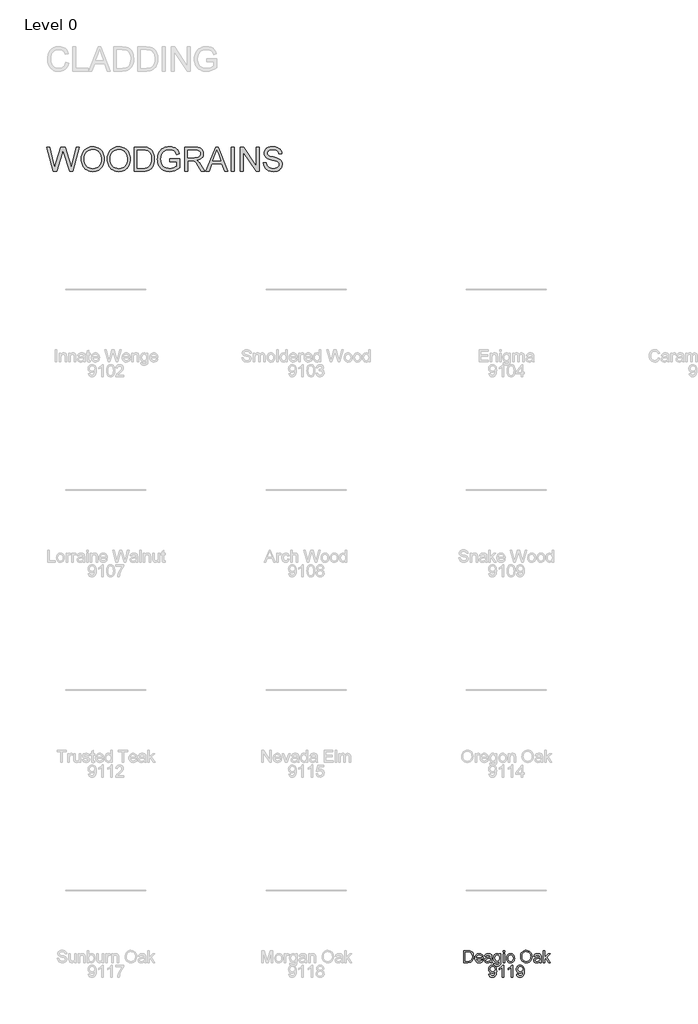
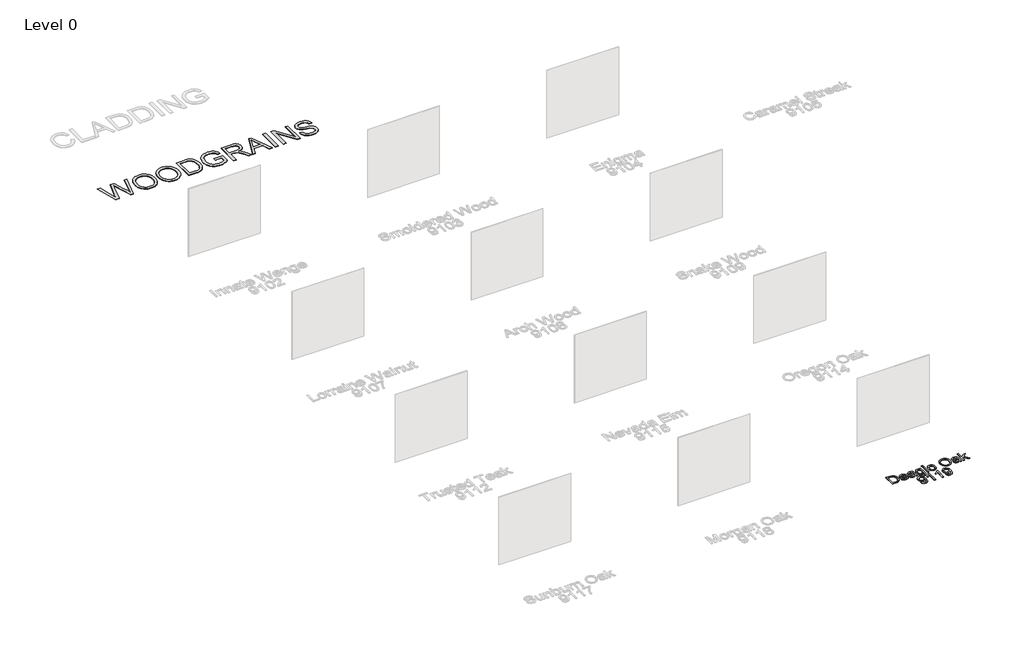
# One storey, part 5 of 10: 2 proxies.
"""IFC4 building model written with IfcOpenShell, lengths in millimetres."""

from ifc_helpers import new_model, si_unit, origin, origin_with_axes, place, context, project, spatial, polyline, outline, extrude, element, save

model = new_model("IFC4")

# Units and contexts
model_context = context("Model", 3, world=origin())
ifc_project = project(units=[si_unit("LENGTHUNIT", "METRE", prefix="MILLI")], contexts=[model_context])

# Site, building, storey
site = spatial("IfcSite", under=ifc_project)
building = spatial("IfcBuilding", under=site)
storey = spatial("IfcBuildingStorey", under=building, Name="Level 0", Elevation=0.0)

# Proxies
placement = place(None, origin())
element("IfcBuildingElementProxy", 1, Name="300mm Arial", ObjectType="300mm Arial", at=placement, inside=storey, context=model_context, shape_type="SweptSolid", body=[
    extrude(outline(polyline([(-519.5759815, -22002.860494), (-519.5759815, -21701.4915635), (-415.6125297, -21701.4915635), (-361.828182, -21705.8325711), (-337.8054877, -21714.2018865), (-317.5351897, -21727.390456), (-296.6946747, -21750.3462925), (-281.8506362, -21778.8939353), (-272.966286, -21812.4815615), (-270.004836, -21850.557348), (-272.0097928, -21882.9033724), (-278.0246635, -21911.3682418), (-287.1849251, -21935.6024682), (-298.6260552, -21955.2565638), (-311.7962306, -21970.771987), (-326.1436284, -21982.590196), (-342.6155448, -21991.3549846), (-362.1592758, -21997.710146), (-410.6093345, -22002.860494), (-519.5759815, -22002.860494)]), holes=[polyline([(-481.9048652, -21965.1893777), (-415.2446477, -21965.1893777), (-387.6718921, -21963.8282143), (-366.7578007, -21959.7447241), (-350.9756631, -21953.1780305), (-338.7987691, -21944.3672567), (-325.7113671, -21928.0608873), (-315.8797208, -21906.9536578), (-309.7268944, -21880.9535978), (-307.6759523, -21849.9687368), (-311.6950631, -21808.9131061), (-323.7523955, -21778.5996297), (-341.5670811, -21757.7775088), (-362.8582515, -21745.1959446), (-384.5265011, -21740.670996), (-416.2747172, -21739.1626798), (-481.9048652, -21739.1626798), (-481.9048652, -21965.1893777)])]), origin_with_axes(), (0.0, 0.0, 1.0), 10.0),
    extrude(outline(polyline([(-67.9640442, -21936.9360404), (-31.0286919, -21941.64493), (-44.3368231, -21969.4752029), (-65.5728112, -21990.2789297), (-94.2584098, -22003.2467701), (-129.9153722, -22007.5693835), (-153.2896745, -22005.7046817), (-174.1163939, -22000.1105761), (-192.3955306, -21990.7870668), (-208.1270844, -21977.7341537), (-220.7776265, -21961.3151204), (-229.813728, -21941.8932503), (-235.2353889, -21919.4685435), (-237.0426092, -21894.0409998), (-235.2169948, -21867.7512327), (-229.7401516, -21844.5792656), (-220.6120796, -21824.5250983), (-207.8327788, -21807.5887309), (-192.1426117, -21794.133447), (-174.2819408, -21784.5225298), (-154.2507662, -21778.7559796), (-132.0490878, -21776.8337961), (-110.56248, -21778.751381), (-91.1314129, -21784.5041357), (-73.7558864, -21794.0920602), (-58.4359005, -21807.5151545), (-45.930212, -21824.4147337), (-36.9975773, -21844.4321128), (-31.6379965, -21867.5672917), (-29.8514695, -21893.8202706), (-30.0721987, -21903.9738137), (-199.3714929, -21903.9738137), (-192.8507845, -21932.1719686), (-177.7032434, -21952.902119), (-155.8418558, -21965.6492302), (-129.1796082, -21969.8982672), (-109.1300395, -21967.9300985), (-92.2442559, -21962.0255925), (-78.5222575, -21951.8168672), (-67.9640442, -21936.9360404)]), holes=[polyline([(-199.3714929, -21866.3026974), (-67.5225858, -21866.3026974), (-72.6177515, -21846.4002814), (-82.6057476, -21832.1632482), (-104.5683027, -21818.9194964), (-132.1962406, -21814.5049125), (-157.5892953, -21818.0273826), (-178.5861602, -21828.5947929), (-193.1818783, -21845.0667092), (-199.3714929, -21866.3026974)])]), origin_with_axes(), (0.0, 0.0, 1.0), 10.0),
    extrude(outline(polyline([(149.0863329, -21974.6071568), (131.0877063, -21990.0398064), (112.5556508, -22000.1381672), (93.0671021, -22005.7115794), (72.1989959, -22007.5693835), (40.7174942, -22003.0996173), (17.4949433, -21989.6903186), (3.1751366, -21969.3280501), (-1.5981323, -21943.9993748), (0.2044895, -21928.3827841), (5.6123548, -21914.2009331), (13.9540791, -21902.0608273), (24.5582776, -21892.5694718), (50.9354166, -21880.2086368), (83.5297614, -21874.5432541), (122.0470063, -21868.5835657), (148.8656037, -21861.5938078), (149.0863329, -21853.2060983), (146.4927649, -21836.3938912), (138.7120607, -21825.3942195), (121.3112423, -21817.2272392), (97.0678188, -21814.5049125), (74.6270171, -21816.3167313), (58.9552441, -21821.7521878), (48.2682722, -21831.8045633), (40.7818736, -21847.4671392), (3.1107573, -21842.7582497), (9.6498597, -21822.156858), (19.4079296, -21805.9700502), (33.295475, -21793.590821), (52.2230036, -21784.4121652), (75.3719782, -21778.7283884), (101.9238612, -21776.8337961), (127.3904923, -21778.5076592), (147.5780168, -21783.5292485), (162.7991343, -21791.0800264), (173.3665446, -21800.3414556), (180.3746966, -21811.7917827), (184.9180393, -21825.9092543), (186.7574492, -21858.8714811), (186.7574492, -21905.7396473), (188.6704356, -21971.1858542), (196.1752283, -22002.860494), (158.504112, -22002.860494), (149.0863329, -21974.6071568)]), holes=[polyline([(149.0863329, -21899.2649241), (88.3122273, -21910.8164188), (55.9018236, -21916.9232599), (41.223332, -21926.8560738), (36.072984, -21941.3506244), (38.8780842, -21952.5526311), (47.2933849, -21961.7312869), (61.1349449, -21967.8565221), (80.2188234, -21969.8982672), (100.4523332, -21967.64499), (118.3313981, -21960.8851583), (132.8259488, -21950.9247533), (142.9059154, -21939.069756), (147.3756817, -21926.8560738), (148.8656037, -21909.933502), (149.0863329, -21899.2649241)])]), origin_with_axes(), (0.0, 0.0, 1.0), 10.0),
    extrude(outline(polyline([(229.1374551, -22021.6960521), (266.8085714, -22026.4049417), (270.9656379, -22038.1771655), (279.0222536, -22046.2705694), (294.8595735, -22052.5613515), (315.589724, -22054.6582789), (337.6994319, -22052.28544), (354.1437571, -22045.1669234), (365.5480989, -22033.7625816), (372.5378568, -22018.532267), (375.1130308, -21974.6071568), (362.5774518, -21986.9679918), (348.5887389, -21995.7971597), (333.1468922, -22001.0946604), (316.2519115, -22002.860494), (295.5976368, -22000.8049533), (277.4127699, -21994.6383314), (261.6973109, -21984.3606281), (248.4512598, -21969.9718436), (237.9413311, -21952.708981), (230.4342391, -21933.8090435), (225.9299839, -21913.2720311), (224.4285656, -21891.0979438), (227.1233012, -21860.6832999), (235.207508, -21832.7150712), (248.3960775, -21809.0142737), (266.4039012, -21791.4019232), (288.6147767, -21780.4758279), (314.4125016, -21776.8337961), (332.0294506, -21778.8939353), (348.0185218, -21785.0743528), (362.3797152, -21795.3750487), (375.1130308, -21809.7960229), (375.1130308, -21781.5426857), (412.7841471, -21781.5426857), (412.7841471, -21972.620594), (410.2089731, -22016.7388422), (402.4834512, -22045.7923228), (389.17532, -22065.0601423), (369.8523182, -22079.8214074), (344.9375101, -22089.2023982), (314.85396, -22092.3293952), (279.8040029, -22087.9240083), (252.2036562, -22074.7078476), (241.8086906, -22064.7865301), (234.4993352, -22052.644125), (230.27559, -22038.2806323), (229.1374551, -22021.6960521)]), holes=[polyline([(262.0996819, -21888.5227699), (266.1187927, -21923.0760863), (278.176125, -21946.8320661), (296.3035104, -21960.6000498), (318.5327799, -21965.1893777), (340.5965026, -21960.6276409), (358.8158584, -21946.9424307), (371.0387377, -21923.4899535), (375.1130308, -21889.6264159), (370.919176, -21856.9676917), (358.3376118, -21833.4508352), (339.8515415, -21819.2413931), (317.9441687, -21814.5049125), (296.4322691, -21819.1678167), (278.3968542, -21833.1565296), (266.173975, -21856.3238983), (262.0996819, -21888.5227699)])]), origin_with_axes(), (0.0, 0.0, 1.0), 10.0),
    extrude(outline(polyline([(469.2908215, -21739.1626798), (469.2908215, -21701.4915635), (506.9619378, -21701.4915635), (506.9619378, -21739.1626798), (469.2908215, -21739.1626798)])), origin_with_axes(), (0.0, 0.0, 1.0), 10.0),
    extrude(outline(polyline([(469.2908215, -22002.860494), (469.2908215, -21781.5426857), (506.9619378, -21781.5426857), (506.9619378, -22002.860494), (469.2908215, -22002.860494)])), origin_with_axes(), (0.0, 0.0, 1.0), 10.0),
    extrude(outline(polyline([(554.0508332, -21892.2015898), (556.0879798, -21863.5389839), (562.1994194, -21838.8403064), (572.3851522, -21818.1055575), (586.645178, -21801.334737), (601.0017729, -21790.6155754), (616.8482898, -21782.9590314), (634.1847288, -21778.3651049), (653.0110899, -21776.8337961), (673.7941234, -21778.698498), (692.5859956, -21784.2926036), (709.3867064, -21793.6161129), (724.196256, -21806.669026), (736.2834788, -21823.0098843), (744.9172094, -21842.1972296), (750.0974477, -21864.2310619), (751.8241938, -21889.1113811), (748.7707733, -21927.1687735), (739.6105116, -21956.1394806), (724.6101232, -21977.8353213), (704.0363227, -21994.0681143), (679.5997611, -22004.1940662), (653.0110899, -22007.5693835), (631.9245538, -22005.7115794), (612.9579377, -22000.1381672), (596.1112416, -21990.8491468), (581.3844655, -21977.8445183), (569.4260014, -21961.3450108), (560.8842413, -21941.5713536), (555.7591852, -21918.5235466), (554.0508332, -21892.2015898)]), holes=[polyline([(591.7219495, -21892.1280134), (596.0813512, -21926.2214773), (609.1595561, -21950.5108861), (628.8412429, -21965.0514219), (653.0110899, -21969.8982672), (677.0705724, -21965.0238308), (696.715471, -21950.4005215), (709.7936759, -21925.789216), (714.1530775, -21890.950791), (709.7660847, -21857.8506085), (696.6051064, -21833.8922936), (676.9326167, -21819.3517577), (653.0110899, -21814.5049125), (628.8412429, -21819.3333636), (609.1595561, -21833.8187172), (596.0813512, -21858.0529436), (591.7219495, -21892.1280134)])]), origin_with_axes(), (0.0, 0.0, 1.0), 10.0),
    extrude(outline(polyline([(902.5086591, -21856.1491543), (905.0194537, -21820.8002931), (912.5518375, -21789.5073309), (925.1058106, -21762.2702677), (942.6813729, -21739.0891034), (964.2254623, -21720.5800406), (988.6850164, -21707.3592814), (1016.0600354, -21699.4268258), (1046.3505192, -21696.782674), (1085.8794396, -21701.7490809), (1121.3248698, -21716.6483017), (1150.7554294, -21740.4318727), (1172.2397379, -21772.0513302), (1185.3731252, -21809.9799639), (1189.7509209, -21852.6910636), (1185.1431989, -21895.9723803), (1171.3200329, -21934.4344429), (1149.0447781, -21966.1090827), (1119.0807896, -21989.028131), (1083.938862, -22002.9340704), (1046.12979, -22007.5693835), (1005.9938643, -22002.4466267), (970.346099, -21987.0783564), (940.9891158, -21962.853327), (919.7255364, -21931.1602931), (906.8128784, -21894.6939903), (902.5086591, -21856.1491543)]), holes=[polyline([(940.1797754, -21856.5170363), (942.0628713, -21881.4916252), (947.7121592, -21903.661114), (957.127639, -21923.0255025), (970.3093108, -21939.5847908), (986.3328709, -21952.8469367), (1004.274016, -21962.3198981), (1024.1327459, -21968.0036749), (1045.9090608, -21969.8982672), (1068.0578562, -21967.9852808), (1088.1511109, -21962.2463217), (1106.188825, -21952.6813898), (1122.1709984, -21939.2904852), (1135.2561011, -21922.381709), (1144.602603, -21902.2631624), (1150.2105042, -21878.9348454), (1152.0798046, -21852.396758), (1148.8792312, -21819.0482551), (1139.2775112, -21790.2247008), (1123.5229647, -21766.6526619), (1101.8639122, -21749.0587055), (1075.7350935, -21738.1050191), (1046.5712484, -21734.4537903), (1025.5513909, -21736.2127261), (1006.0490466, -21741.4895335), (988.0642156, -21750.2842124), (971.5968978, -21762.5967629), (957.8519067, -21779.0203948), (948.034056, -21800.1483176), (942.1433455, -21825.9805314), (940.1797754, -21856.5170363)])]), origin_with_axes(), (0.0, 0.0, 1.0), 10.0),
    extrude(outline(polyline([(1378.1065024, -21974.6071568), (1360.1078758, -21990.0398064), (1341.5758203, -22000.1381672), (1322.0872716, -22005.7115794), (1301.2191654, -22007.5693835), (1269.7376637, -22003.0996173), (1246.5151128, -21989.6903186), (1232.1953061, -21969.3280501), (1227.4220372, -21943.9993748), (1229.224659, -21928.3827841), (1234.6325243, -21914.2009331), (1242.9742485, -21902.0608273), (1253.5784471, -21892.5694718), (1279.9555861, -21880.2086368), (1312.5499309, -21874.5432541), (1351.0671758, -21868.5835657), (1377.8857732, -21861.5938078), (1378.1065024, -21853.2060983), (1375.5129344, -21836.3938912), (1367.7322302, -21825.3942195), (1350.3314118, -21817.2272392), (1326.0879883, -21814.5049125), (1303.6471866, -21816.3167313), (1287.9754136, -21821.7521878), (1277.2884416, -21831.8045633), (1269.802043, -21847.4671392), (1232.1309267, -21842.7582497), (1238.6700292, -21822.156858), (1248.4280991, -21805.9700502), (1262.3156444, -21793.590821), (1281.2431731, -21784.4121652), (1304.3921476, -21778.7283884), (1330.9440306, -21776.8337961), (1356.4106618, -21778.5076592), (1376.5981862, -21783.5292485), (1391.8193038, -21791.0800264), (1402.3867141, -21800.3414556), (1409.3948661, -21811.7917827), (1413.9382088, -21825.9092543), (1415.7776187, -21858.8714811), (1415.7776187, -21905.7396473), (1417.6906051, -21971.1858542), (1425.1953978, -22002.860494), (1387.5242815, -22002.860494), (1378.1065024, -21974.6071568)]), holes=[polyline([(1378.1065024, -21899.2649241), (1317.3323968, -21910.8164188), (1284.921993, -21916.9232599), (1270.2435014, -21926.8560738), (1265.0931535, -21941.3506244), (1267.8982537, -21952.5526311), (1276.3135544, -21961.7312869), (1290.1551144, -21967.8565221), (1309.2389929, -21969.8982672), (1329.4725027, -21967.64499), (1347.3515676, -21960.8851583), (1361.8461182, -21950.9247533), (1371.9260849, -21939.069756), (1376.3958511, -21926.8560738), (1377.8857732, -21909.933502), (1378.1065024, -21899.2649241)])]), origin_with_axes(), (0.0, 0.0, 1.0), 10.0),
    extrude(outline(polyline([(1467.5754037, -22002.860494), (1467.5754037, -21701.4915635), (1505.24652, -21701.4915635), (1505.24652, -21863.4332178), (1589.7122261, -21781.5426857), (1641.8043166, -21781.5426857), (1556.3085409, -21864.4632874), (1646.5132061, -22002.860494), (1602.5145195, -22002.860494), (1529.3060024, -21890.6564855), (1505.24652, -21913.9802039), (1505.24652, -22002.860494), (1467.5754037, -22002.860494)])), origin_with_axes(), (0.0, 0.0, 1.0), 10.0),
    extrude(outline(polyline([(111.4152166, -22293.4427149), (149.0863329, -22288.7338254), (155.5242679, -22310.1169663), (166.0089047, -22324.6758963), (180.2827261, -22333.0360146), (198.0882147, -22335.8227207), (214.0634903, -22334.029296), (228.5856321, -22328.6490218), (240.6521615, -22320.2705094), (249.2606002, -22309.4823699), (261.5846471, -22276.7408723), (267.0293006, -22233.0364913), (266.8085714, -22225.6788514), (253.7579576, -22241.6081418), (236.679036, -22254.2264942), (216.8042112, -22262.4486568), (195.3658879, -22265.1893777), (177.4707281, -22263.5155146), (161.0149066, -22258.4939254), (145.9984234, -22250.12461), (132.4212786, -22238.4075684), (121.1709873, -22223.9544045), (113.135065, -22207.3767221), (108.3135116, -22188.6745212), (106.7063271, -22167.8478018), (108.3916865, -22146.326705), (113.4477647, -22127.0129003), (121.8745616, -22109.9063875), (133.6720773, -22095.0071667), (148.0079788, -22082.9360387), (164.0499331, -22074.3138045), (181.7979401, -22069.1404639), (201.2519999, -22067.4160171), (229.3489872, -22071.3523544), (254.925983, -22083.1613665), (276.318321, -22102.254442), (291.8613353, -22128.0429699), (301.3250996, -22163.6907352), (304.4796877, -22212.3615232), (301.3342966, -22263.96617), (291.8981235, -22303.8537754), (276.2539416, -22333.8269609), (254.4845246, -22355.6883485), (227.5279714, -22369.0424649), (196.3223811, -22373.4938371), (164.1143124, -22368.2423216), (138.4177551, -22352.4877751), (120.4467196, -22327.2234791), (111.4152166, -22293.4427149)]), holes=[polyline([(266.8085714, -22166.964885), (262.7434754, -22141.4338745), (250.5481872, -22121.788976), (231.6206586, -22109.262594), (207.358841, -22105.0871334), (182.1957125, -22109.5844908), (162.0357792, -22123.0765629), (148.7920273, -22143.7239399), (144.3774434, -22169.6872117), (148.552904, -22192.964945), (161.079286, -22211.4418182), (180.7425786, -22223.4991506), (206.3287714, -22227.5182614), (230.3974509, -22223.4991506), (249.775635, -22211.4418182), (262.5503373, -22192.2843633), (266.8085714, -22166.964885)])]), origin_with_axes(), (0.0, 0.0, 1.0), 10.0),
    extrude(outline(polyline([(478.7086006, -22368.7849475), (441.0374843, -22368.7849475), (441.0374843, -22133.9290818), (405.3529308, -22159.3497277), (365.6952517, -22178.3692268), (365.6952517, -22142.7582497), (395.2821612, -22126.6634124), (420.9143392, -22107.5151545), (441.1202578, -22087.1528861), (454.4283889, -22067.4160171), (478.7086006, -22067.4160171), (478.7086006, -22368.7849475)])), origin_with_axes(), (0.0, 0.0, 1.0), 10.0),
    extrude(outline(polyline([(709.444188, -22368.7849475), (671.7730717, -22368.7849475), (671.7730717, -22133.9290818), (636.0885182, -22159.3497277), (596.4308391, -22178.3692268), (596.4308391, -22142.7582497), (626.0177485, -22126.6634124), (651.6499266, -22107.5151545), (671.8558451, -22087.1528861), (685.1639763, -22067.4160171), (709.444188, -22067.4160171), (709.444188, -22368.7849475)])), origin_with_axes(), (0.0, 0.0, 1.0), 10.0),
    extrude(outline(polyline([(803.6219788, -22293.4427149), (841.2930951, -22288.7338254), (847.73103, -22310.1169663), (858.2156668, -22324.6758963), (872.4894883, -22333.0360146), (890.2949768, -22335.8227207), (906.2702525, -22334.029296), (920.7923942, -22328.6490218), (932.8589237, -22320.2705094), (941.4673624, -22309.4823699), (953.7914092, -22276.7408723), (959.2360627, -22233.0364913), (959.0153335, -22225.6788514), (945.9647197, -22241.6081418), (928.8857981, -22254.2264942), (909.0109733, -22262.4486568), (887.5726501, -22265.1893777), (869.6774903, -22263.5155146), (853.2216688, -22258.4939254), (838.2051856, -22250.12461), (824.6280407, -22238.4075684), (813.3777494, -22223.9544045), (805.3418271, -22207.3767221), (800.5202737, -22188.6745212), (798.9130892, -22167.8478018), (800.5984486, -22146.326705), (805.6545268, -22127.0129003), (814.0813237, -22109.9063875), (825.8788395, -22095.0071667), (840.214741, -22082.9360387), (856.2566952, -22074.3138045), (874.0047022, -22069.1404639), (893.458762, -22067.4160171), (921.5557494, -22071.3523544), (947.1327451, -22083.1613665), (968.5250831, -22102.254442), (984.0680974, -22128.0429699), (993.5318617, -22163.6907352), (996.6864498, -22212.3615232), (993.5410588, -22263.96617), (984.1048856, -22303.8537754), (968.4607037, -22333.8269609), (946.6912867, -22355.6883485), (919.7347335, -22369.0424649), (888.5291432, -22373.4938371), (856.3210746, -22368.2423216), (830.6245172, -22352.4877751), (812.6534817, -22327.2234791), (803.6219788, -22293.4427149)]), holes=[polyline([(959.0153335, -22166.964885), (954.9502375, -22141.4338745), (942.7549493, -22121.788976), (923.8274207, -22109.262594), (899.5656031, -22105.0871334), (874.4024746, -22109.5844908), (854.2425413, -22123.0765629), (840.9987895, -22143.7239399), (836.5842055, -22169.6872117), (840.7596662, -22192.964945), (853.2860481, -22211.4418182), (872.9493407, -22223.4991506), (898.5355335, -22227.5182614), (922.604213, -22223.4991506), (941.9823971, -22211.4418182), (954.7570994, -22192.2843633), (959.0153335, -22166.964885)])]), origin_with_axes(), (0.0, 0.0, 1.0), 10.0),
])
element("IfcBuildingElementProxy", 2, Name="600mm Arial", ObjectType="600mm Arial", at=placement, inside=storey, context=model_context, shape_type="SweptSolid", body=[
    extrude(outline(polyline([(-10769.6001843, -2239.8720473), (-10933.9698597, -1637.1341864), (-10856.2731823, -1637.1341864), (-10760.9181692, -2033.2695188), (-10731.4876096, -2155.553494), (-10699.9969108, -2047.3961875), (-10580.5088387, -1637.1341864), (-10468.5255594, -1637.1341864), (-10381.7054085, -1934.5299913), (-10344.5125388, -2044.8945899), (-10317.1053302, -2155.553494), (-10288.5576874, -2036.801186), (-10192.3197574, -1637.1341864), (-10114.62308, -1637.1341864), (-10279.1399083, -2239.8720473), (-10359.6324888, -2239.8720473), (-10504.1365365, -1774.8692054), (-10524.2964699, -1709.9748215), (-10546.9580008, -1788.1129573), (-10678.659755, -2239.8720473), (-10769.6001843, -2239.8720473)])), origin_with_axes(), (0.0, 0.0, 1.0), 10.0),
    extrude(outline(polyline([(-10067.5341847, -1946.449368), (-10062.5125954, -1875.7516456), (-10047.4478277, -1813.1657211), (-10022.3398816, -1758.6915947), (-10006.0197165, -1734.4964557), (-9987.1887569, -1712.3292662), (-9944.1005782, -1675.3111405), (-9895.1814699, -1648.8696221), (-9840.431432, -1633.004711), (-9779.8504644, -1627.7164074), (-9739.3006715, -1630.1996108), (-9700.7926237, -1637.6492212), (-9664.3263209, -1650.0652386), (-9629.9017632, -1667.4476628), (-9598.4846408, -1689.2722622), (-9571.040644, -1715.0148048), (-9547.5697727, -1744.6752907), (-9528.0720269, -1778.2537198), (-9512.7497418, -1814.986737), (-9501.8052525, -1854.1109872), (-9495.2385589, -1895.6264703), (-9493.049661, -1939.5331865), (-9495.353522, -1984.0193167), (-9502.265105, -2026.0958199), (-9513.7844099, -2065.7626961), (-9529.9114369, -2103.0199451), (-9550.2645083, -2136.8834828), (-9574.4619465, -2166.3692247), (-9602.5037516, -2191.4771709), (-9634.3899235, -2212.2073213), (-9668.865065, -2228.4309173), (-9704.6737787, -2240.0192001), (-9741.8160647, -2246.9721698), (-9780.2919228, -2249.2898264), (-9821.5498886, -2246.728448), (-9860.5637742, -2239.0443128), (-9897.3335796, -2226.2374209), (-9931.8593048, -2208.3077721), (-9963.239639, -2185.9497439), (-9990.5732713, -2159.8577134), (-10013.8602016, -2130.0316806), (-10033.1004299, -2096.4716456), (-10048.1651976, -2060.5249762), (-10058.925746, -2023.5390401), (-10065.382075, -1985.5138373), (-10067.5341847, -1946.449368)]), holes=[polyline([(-9992.191952, -1947.185132), (-9988.4257601, -1997.1343099), (-9977.1271843, -2041.4732873), (-9958.2962247, -2080.2020644), (-9931.9328812, -2113.320641), (-9899.8857609, -2139.8449328), (-9864.0034708, -2158.7908556), (-9824.2860109, -2170.1584092), (-9780.7333812, -2173.9475938), (-9736.4357905, -2170.121621), (-9696.249281, -2158.6437028), (-9660.1738529, -2139.513839), (-9628.209506, -2112.7320298), (-9602.0393006, -2078.9144774), (-9583.3462967, -2038.6773842), (-9572.1304944, -1992.0207501), (-9568.3918936, -1938.9445753), (-9569.9921803, -1904.4648353), (-9574.7930403, -1872.2475695), (-9582.7944737, -1842.2927781), (-9593.9964805, -1814.6004609), (-9608.2749004, -1789.5339015), (-9625.5055734, -1767.4563832), (-9645.6884993, -1748.3679062), (-9668.8236783, -1732.2684704), (-9694.1937404, -1719.4891696), (-9721.0813157, -1710.3610976), (-9749.4864043, -1704.8842544), (-9779.409006, -1703.05864), (-9821.448721, -1706.5765115), (-9860.4534096, -1717.1301263), (-9896.4230717, -1734.7194842), (-9929.3577073, -1759.3445852), (-9956.8476894, -1792.1918489), (-9976.4833909, -1834.4476945), (-9988.2648117, -1886.1121222), (-9992.191952, -1947.185132)])]), origin_with_axes(), (0.0, 0.0, 1.0), 10.0),
    extrude(outline(polyline([(-9417.7074284, -1946.449368), (-9412.6858391, -1875.7516456), (-9397.6210714, -1813.1657211), (-9372.5131253, -1758.6915947), (-9356.1929603, -1734.4964557), (-9337.3620006, -1712.3292662), (-9294.2738219, -1675.3111405), (-9245.3547136, -1648.8696221), (-9190.6046757, -1633.004711), (-9130.0237082, -1627.7164074), (-9089.4739152, -1630.1996108), (-9050.9658674, -1637.6492212), (-9014.4995646, -1650.0652386), (-8980.0750069, -1667.4476628), (-8948.6578845, -1689.2722622), (-8921.2138877, -1715.0148048), (-8897.7430164, -1744.6752907), (-8878.2452707, -1778.2537198), (-8862.9229856, -1814.986737), (-8851.9784962, -1854.1109872), (-8845.4118026, -1895.6264703), (-8843.2229047, -1939.5331865), (-8845.5267657, -1984.0193167), (-8852.4383487, -2026.0958199), (-8863.9576537, -2065.7626961), (-8880.0846806, -2103.0199451), (-8900.437752, -2136.8834828), (-8924.6351902, -2166.3692247), (-8952.6769953, -2191.4771709), (-8984.5631673, -2212.2073213), (-9019.0383087, -2228.4309173), (-9054.8470224, -2240.0192001), (-9091.9893084, -2246.9721698), (-9130.4651665, -2249.2898264), (-9171.7231323, -2246.728448), (-9210.7370179, -2239.0443128), (-9247.5068233, -2226.2374209), (-9282.0325486, -2208.3077721), (-9313.4128827, -2185.9497439), (-9340.746515, -2159.8577134), (-9364.0334453, -2130.0316806), (-9383.2736736, -2096.4716456), (-9398.3384413, -2060.5249762), (-9409.0989897, -2023.5390401), (-9415.5553187, -1985.5138373), (-9417.7074284, -1946.449368)]), holes=[polyline([(-9342.3651958, -1947.185132), (-9338.5990038, -1997.1343099), (-9327.3004281, -2041.4732873), (-9308.4694684, -2080.2020644), (-9282.106125, -2113.320641), (-9250.0590047, -2139.8449328), (-9214.1767145, -2158.7908556), (-9174.4592546, -2170.1584092), (-9130.9066249, -2173.9475938), (-9086.6090342, -2170.121621), (-9046.4225247, -2158.6437028), (-9010.3470966, -2139.513839), (-8978.3827497, -2112.7320298), (-8952.2125443, -2078.9144774), (-8933.5195404, -2038.6773842), (-8922.3037381, -1992.0207501), (-8918.5651373, -1938.9445753), (-8920.165424, -1904.4648353), (-8924.966284, -1872.2475695), (-8932.9677174, -1842.2927781), (-8944.1697242, -1814.6004609), (-8958.4481441, -1789.5339015), (-8975.6788171, -1767.4563832), (-8995.861743, -1748.3679062), (-9018.996922, -1732.2684704), (-9044.3669841, -1719.4891696), (-9071.2545594, -1710.3610976), (-9099.659648, -1704.8842544), (-9129.5822498, -1703.05864), (-9171.6219648, -1706.5765115), (-9210.6266533, -1717.1301263), (-9246.5963154, -1734.7194842), (-9279.530951, -1759.3445852), (-9307.0209331, -1792.1918489), (-9326.6566346, -1834.4476945), (-9338.4380555, -1886.1121222), (-9342.3651958, -1947.185132)])]), origin_with_axes(), (0.0, 0.0, 1.0), 10.0),
    extrude(outline(polyline([(-8739.6273349, -2239.8720473), (-8739.6273349, -1637.1341864), (-8531.7004312, -1637.1341864), (-8469.5651622, -1639.3046902), (-8424.1317358, -1645.8162015), (-8376.0863472, -1662.5548323), (-8335.5457514, -1688.9319714), (-8313.2061172, -1710.4898563), (-8293.8647213, -1734.8436444), (-8277.5215637, -1761.9933356), (-8264.1766443, -1791.93893), (-8253.8115691, -1824.4045161), (-8246.4079439, -1859.1141823), (-8240.4850438, -1935.2657553), (-8244.4949576, -1999.9578042), (-8256.5246988, -2056.8875429), (-8274.8452222, -2105.3559958), (-8297.7274823, -2144.664187), (-8324.0678331, -2175.6950333), (-8352.7626287, -2199.3314515), (-8385.7064614, -2216.8610285), (-8424.7939234, -2229.5713515), (-8470.0985911, -2237.2968734), (-8521.6940409, -2239.8720473), (-8739.6273349, -2239.8720473)]), holes=[polyline([(-8664.2851023, -2164.5298147), (-8530.9646672, -2164.5298147), (-8475.8191561, -2161.807488), (-8433.9909733, -2153.6405077), (-8402.4266981, -2140.5071204), (-8378.07291, -2122.8855729), (-8351.8981061, -2090.272834), (-8332.2348134, -2048.058375), (-8319.9291607, -1996.058255), (-8315.8272764, -1934.0885329), (-8317.8368318, -1890.3473637), (-8323.865498, -1851.9772716), (-8333.913275, -1818.9782566), (-8347.9801628, -1791.3503188), (-8364.9257272, -1768.4680587), (-8383.609534, -1749.706077), (-8404.0315833, -1735.0643735), (-8426.191875, -1724.5429485), (-8469.528374, -1715.4930514), (-8533.0248064, -1712.476419), (-8664.2851023, -1712.476419), (-8664.2851023, -2164.5298147)])]), origin_with_axes(), (0.0, 0.0, 1.0), 10.0),
    extrude(outline(polyline([(-7854.3561017, -2004.4275704), (-7854.3561017, -1929.0853378), (-7609.4938457, -1929.0853378), (-7609.4938457, -2154.3762716), (-7668.9987584, -2195.7629961), (-7730.3798693, -2225.4510731), (-7793.4900256, -2243.3301381), (-7858.1820744, -2249.2898264), (-7901.4587926, -2246.9215861), (-7942.7029628, -2239.816865), (-7981.914585, -2227.9756633), (-8019.0936591, -2211.3979809), (-8053.0399702, -2190.3321382), (-8082.5533033, -2165.0264554), (-8107.6336583, -2135.4809327), (-8128.2810353, -2101.6955699), (-8144.4080622, -2064.7510206), (-8155.9273672, -2025.7279379), (-8162.8389502, -1984.626322), (-8165.1428112, -1941.4461728), (-8162.8481473, -1898.2614251), (-8155.9641554, -1856.5574025), (-8144.4908357, -1816.3341048), (-8128.4281881, -1777.5915322), (-8108.0613211, -1742.0311388), (-8083.6753434, -1711.354379), (-8055.2702548, -1685.5612526), (-8022.8460555, -1664.6517597), (-7987.1063196, -1648.492543), (-7948.7546216, -1636.9502454), (-7907.7909615, -1630.0248669), (-7864.2153391, -1627.7164074), (-7802.1536466, -1633.0690904), (-7746.3459479, -1649.1271395), (-7721.4265412, -1660.8809692), (-7699.349023, -1674.7317263), (-7680.1133932, -1690.6794108), (-7663.7196518, -1708.7240227), (-7637.3609068, -1752.7411034), (-7618.1758608, -1808.4200434), (-7687.6319815, -1827.9913655), (-7703.1382076, -1788.2785041), (-7721.9921598, -1758.3145156), (-7746.9345591, -1735.7265611), (-7780.7061262, -1718.1418018), (-7820.9708106, -1706.8294304), (-7865.3925615, -1703.05864), (-7917.3926815, -1707.123736), (-7961.8512207, -1719.3190242), (-7998.602632, -1738.1177941), (-8027.4813686, -1761.9933356), (-8049.6462588, -1789.7132439), (-8066.2561309, -1820.0451144), (-8083.9144667, -1876.9196709), (-8089.8005786, -1938.3559641), (-8088.0301465, -1975.9764966), (-8082.7188502, -2010.4056528), (-8073.8666897, -2041.6434328), (-8061.473665, -2069.6898364), (-8045.7007244, -2094.4390976), (-8026.7088164, -2115.7854504), (-8004.497941, -2133.7288947), (-7979.068098, -2148.2694305), (-7951.6103056, -2159.503627), (-7923.3155817, -2167.528053), (-7894.1839262, -2172.3427086), (-7864.2153391, -2173.9475938), (-7812.0312781, -2169.1099456), (-7761.1348041, -2154.5970008), (-7716.9337824, -2134.6026144), (-7684.8360783, -2113.320641), (-7684.8360783, -2004.4275704), (-7854.3561017, -2004.4275704)])), origin_with_axes(), (0.0, 0.0, 1.0), 10.0),
    extrude(outline(polyline([(-7487.0627177, -2239.8720473), (-7487.0627177, -1637.1341864), (-7227.3380291, -1637.1341864), (-7157.5324205, -1641.1992825), (-7106.7463111, -1653.3945706), (-7087.1473978, -1663.0882612), (-7069.6270178, -1675.9089487), (-7054.185171, -1691.8566332), (-7040.8218575, -1710.9313147), (-7030.0383166, -1732.107522), (-7022.3357873, -1754.3597842), (-7017.7142697, -1777.6881012), (-7016.1737639, -1802.0924731), (-7018.7259452, -1833.049743), (-7026.3824892, -1861.4686271), (-7039.1433959, -1887.3491255), (-7057.0086653, -1910.691238), (-7080.2082237, -1930.7500038), (-7108.9719971, -1946.7804618), (-7143.2999858, -1958.7826119), (-7183.1921897, -1966.7564541), (-7158.360155, -1982.9800501), (-7140.3707254, -1998.9829169), (-7109.505426, -2035.5871754), (-7079.3023142, -2076.5324415), (-6978.7969532, -2239.8720473), (-7066.352868, -2239.8720473), (-7144.7853094, -2114.9393218), (-7201.4391366, -2032.2394493), (-7222.5003809, -2008.1247845), (-7241.2439685, -1993.1703814), (-7277.0756748, -1978.8229836), (-7320.7800559, -1976.1742332), (-7411.7204851, -1976.1742332), (-7411.7204851, -2239.8720473), (-7487.0627177, -2239.8720473)]), holes=[polyline([(-7411.7204851, -1900.8320006), (-7243.0833785, -1900.8320006), (-7194.6517138, -1898.1648561), (-7157.072568, -1890.1634227), (-7128.7824426, -1876.2942715), (-7108.2178391, -1856.0239736), (-7095.6914571, -1831.5046386), (-7091.5159965, -1804.8883762), (-7093.5071578, -1785.6205567), (-7099.4806417, -1768.1369649), (-7109.4364482, -1752.4376008), (-7123.3745773, -1738.5224643), (-7141.6169257, -1727.1273195), (-7164.4853902, -1718.9879304), (-7191.9799708, -1714.1042969), (-7224.1006675, -1712.476419), (-7411.7204851, -1712.476419), (-7411.7204851, -1900.8320006)])]), origin_with_axes(), (0.0, 0.0, 1.0), 10.0),
    extrude(outline(polyline([(-6954.5167415, -2239.8720473), (-6713.9219166, -1637.1341864), (-6649.7632967, -1637.1341864), (-6409.1684718, -2239.8720473), (-6488.7781356, -2239.8720473), (-6557.7927979, -2051.5164658), (-6806.0395682, -2051.5164658), (-6874.9070777, -2239.8720473), (-6954.5167415, -2239.8720473)]), holes=[polyline([(-6778.3748422, -1976.1742332), (-6585.3103711, -1976.1742332), (-6639.6097536, -1827.9913655), (-6681.8426066, -1712.476419), (-6719.3665702, -1815.0419193), (-6778.3748422, -1976.1742332)])]), origin_with_axes(), (0.0, 0.0, 1.0), 10.0),
    extrude(outline(polyline([(-6319.2581122, -2239.8720473), (-6319.2581122, -1637.1341864), (-6243.9158796, -1637.1341864), (-6243.9158796, -2239.8720473), (-6319.2581122, -2239.8720473)])), origin_with_axes(), (0.0, 0.0, 1.0), 10.0),
    extrude(outline(polyline([(-6093.2314144, -2239.8720473), (-6093.2314144, -1637.1341864), (-6012.591681, -1637.1341864), (-5697.6846932, -2114.6450162), (-5697.6846932, -1637.1341864), (-5622.3424605, -1637.1341864), (-5622.3424605, -2239.8720473), (-5702.9821939, -2239.8720473), (-6017.8891818, -1762.2140648), (-6017.8891818, -2239.8720473), (-6093.2314144, -2239.8720473)])), origin_with_axes(), (0.0, 0.0, 1.0), 10.0),
    extrude(outline(polyline([(-5518.7468907, -2032.6809076), (-5443.4046581, -2032.6809076), (-5434.7594312, -2074.4906964), (-5419.1244464, -2108.0967167), (-5394.7338701, -2134.7681613), (-5359.8218688, -2155.7742232), (-5317.1475573, -2169.4042512), (-5269.4700508, -2173.9475938), (-5227.4947151, -2170.5078971), (-5190.7433038, -2160.1888072), (-5160.9632563, -2143.8548466), (-5139.9020121, -2122.3705381), (-5127.3756301, -2097.7040503), (-5123.2001695, -2071.8235519), (-5126.3271664, -2046.6052412), (-5135.7081573, -2024.8082329), (-5154.7644447, -2006.2117981), (-5186.917331, -1990.5952074), (-5296.619742, -1961.8268354), (-5368.6326426, -1942.7889421), (-5414.7098625, -1924.6707539), (-5452.2154319, -1899.3236844), (-5478.794906, -1868.6055378), (-5494.6322259, -1833.1785017), (-5499.9113325, -1793.7047636), (-5498.2788562, -1771.2685604), (-5493.3814271, -1749.5773183), (-5485.2190454, -1728.6310372), (-5473.7917109, -1708.4297171), (-5459.2281824, -1689.796494), (-5441.6572186, -1673.554504), (-5421.0788195, -1659.7037468), (-5397.4929851, -1648.2442227), (-5344.4811896, -1632.8483612), (-5285.8040114, -1627.7164074), (-5222.2340026, -1633.0874845), (-5166.6102449, -1649.2007159), (-5142.2748509, -1661.202866), (-5120.9193011, -1675.7250077), (-5102.5435955, -1692.7671412), (-5087.147734, -1712.3292662), (-5074.8512783, -1733.8411659), (-5065.77379, -1756.7326231), (-5059.9152693, -1781.0036377), (-5057.2757159, -1806.6542098), (-5132.6179486, -1806.6542098), (-5137.6579319, -1782.6131214), (-5146.4503116, -1761.69903), (-5158.9950876, -1743.9119355), (-5175.29226, -1729.251838), (-5195.6453314, -1717.7923139), (-5220.3578044, -1709.6069395), (-5249.4296791, -1704.6957148), (-5282.8609554, -1703.05864), (-5317.3590895, -1704.6773207), (-5346.8356344, -1709.5333631), (-5371.29059, -1717.626767), (-5390.7239564, -1728.9575324), (-5405.5312067, -1742.5783633), (-5416.107814, -1757.5419635), (-5422.4537785, -1773.8483329), (-5424.5690999, -1791.4974716), (-5423.0699808, -1806.681801), (-5418.5726234, -1820.4497846), (-5411.0770278, -1832.8014226), (-5400.5831938, -1843.7367149), (-5384.0652923, -1854.0925931), (-5358.0560352, -1864.5588358), (-5277.5634547, -1885.8224152), (-5194.4957001, -1906.0191367), (-5144.2430196, -1923.6406843), (-5101.2927967, -1950.9743165), (-5084.6875231, -1967.0415627), (-5071.3288082, -1984.7090955), (-5061.060302, -2003.8849445), (-5053.7256547, -2024.4771392), (-5047.8579369, -2069.9105656), (-5049.5455955, -2093.4780059), (-5054.6085715, -2116.3556674), (-5063.0468647, -2138.5435503), (-5074.8604753, -2160.0416544), (-5089.8424696, -2180.0176467), (-5107.7859139, -2197.6391943), (-5128.6908083, -2212.9062971), (-5152.5571527, -2225.8189551), (-5178.6905699, -2236.0874613), (-5206.3966827, -2243.4221086), (-5266.5269948, -2249.2898264), (-5305.0672323, -2247.7079338), (-5340.3425171, -2242.9622561), (-5372.3528492, -2235.0527932), (-5401.0982286, -2223.9795451), (-5426.7533993, -2209.7241178), (-5449.4931051, -2192.2681172), (-5469.3173461, -2171.6115431), (-5486.2261223, -2147.7543957), (-5499.8469532, -2121.4692272), (-5509.8073582, -2093.5285896), (-5516.1073374, -2063.9324831), (-5518.7468907, -2032.6809076)])), origin_with_axes(), (0.0, 0.0, 1.0), 10.0),
])

save(model, "model.ifc")
